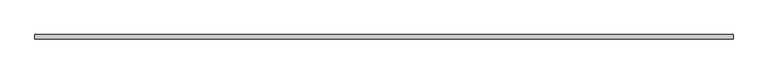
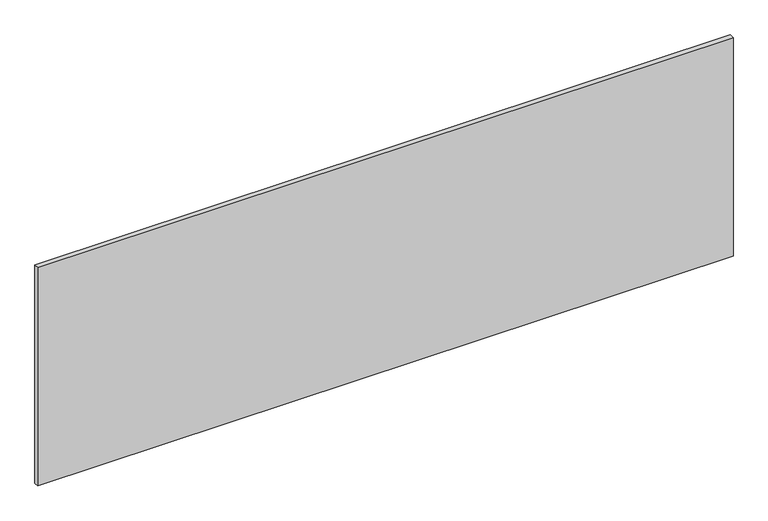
"""IFC4 building model written with IfcOpenShell, lengths in millimetres: proxy geometry, 38 Series Cedar Texture Soffit - Cut-To-Width (Strand) - 15.94 : 38 Series Cedar Texture Soffit – Cut-To-Width (Strand) - 15.94."""

from ifc_helpers import new_model, si_unit, frame, origin, place, context, project, spatial, polyline, outline, extrude, source, transform, mapped, element, save


def generic_models_3d542e1a(model_context):
    return source(origin(), model_context, "Body", "SweptSolid", [
        extrude(outline(polyline([(1219.2, -8.001), (0.0, -8.001), (0.0, 0.0), (1219.2, 0.0), (1219.2, -8.001)])), frame((0.0, 0.0, -404.876), z_axis=(0.0, 0.0, 1.0), x_axis=(1.0, 0.0, 0.0)), (0.0, 0.0, 1.0), 404.876),
    ])


if __name__ == "__main__":
    model = new_model("IFC4")
    model_context = context("Model", 3, world=origin())
    ifc_project = project(units=[si_unit("LENGTHUNIT", "METRE", prefix="MILLI")], contexts=[model_context])
    site = spatial("IfcSite", under=ifc_project)
    building = spatial("IfcBuilding", under=site)
    placement = place(None, origin())
    generic_models_shape = generic_models_3d542e1a(model_context)
    element("IfcBuildingElementProxy", 1, Name="38 Series Cedar Texture Soffit - Cut-To-Width (Strand) - 15.94 : 38 Series Cedar Texture Soffit – Cut-To-Width (Strand) - 15.94", ObjectType="38 Series Cedar Texture Soffit - Cut-To-Width (Strand) - 15.94 : 38 Series Cedar Texture Soffit – Cut-To-Width (Strand) - 15.94", at=placement, inside=building, context=model_context, shape_type="MappedRepresentation", body=[
        mapped(generic_models_shape, transform((0.0, 0.0, 0.0), x_axis=(1.0, 0.0, 0.0), y_axis=(0.0, 1.0, 0.0), z_axis=(0.0, 0.0, 1.0))),
    ])
    save(model, "model.ifc")
